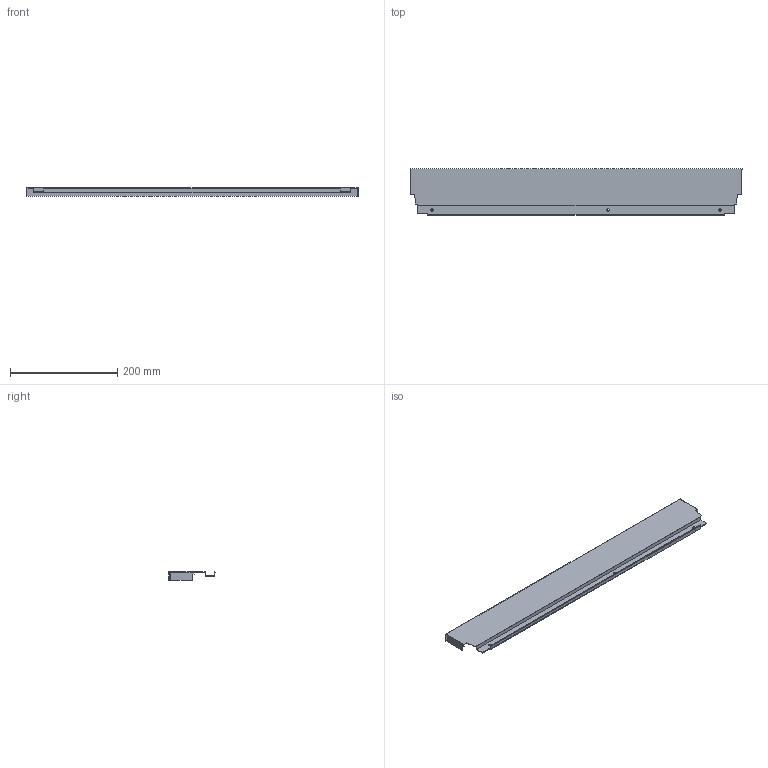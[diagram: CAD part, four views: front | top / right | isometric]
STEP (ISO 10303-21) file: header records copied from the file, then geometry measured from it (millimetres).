
FILE_DESCRIPTION (( 'STEP AP214' ), '1' );
FILE_NAME ('_DWD_XP Stahlrückwand_H86_KAB700_S16.step', '2010-07-08T12:09:57', ( 'grass' ), ( '' ), 'SwSTEP 2.0', 'SolidWorks 2010', '' );
FILE_SCHEMA (( 'AUTOMOTIVE_DESIGN' ));
Length unit declared in the file: millimetre
Products named in the file (1): _DWD_XP Stahlrückwand_H86_KAB700_S16
Bounding box: 619 x 85.79 x 16 mm (x, y, z)
Volume: 66084.8 mm3; surface area: 143802.9 mm2
Topology: 1 solids, 1 shells, 50 faces, 144 edges, 96 vertices
Faces by surface type: plane 44, cylinder 6
Entity records: 1666 total; most frequent: CARTESIAN_POINT 291, ORIENTED_EDGE 288, DIRECTION 258, EDGE_CURVE 144, LINE 132, VECTOR 132, VERTEX_POINT 96, AXIS2_PLACEMENT_3D 63
